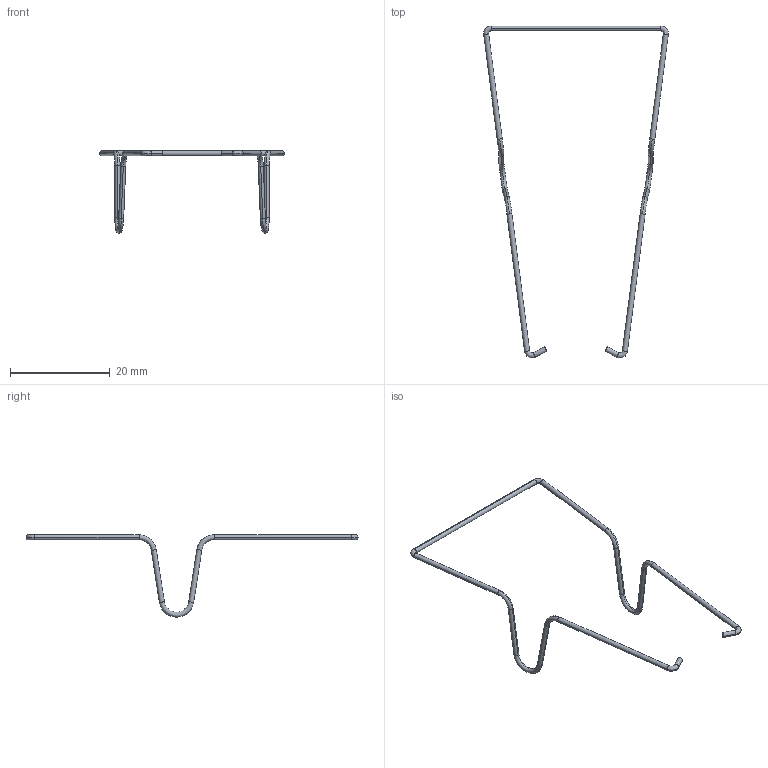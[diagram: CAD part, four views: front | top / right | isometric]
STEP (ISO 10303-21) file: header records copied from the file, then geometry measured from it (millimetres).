
FILE_DESCRIPTION (( 'STEP AP214' ), '1' );
FILE_NAME ('S3-C.STEP', '2014-03-28T14:41:54', ( '' ), ( '' ), 'SwSTEP 2.0', 'SolidWorks 2014', '' );
FILE_SCHEMA (( 'AUTOMOTIVE_DESIGN' ));
Length unit declared in the file: millimetre
Products named in the file (1): S3-C
Bounding box: 37 x 66.5 x 16.49 mm (x, y, z)
Volume: 173.1 mm3; surface area: 693.9 mm2
Topology: 1 solids, 1 shells, 44 faces, 114 edges, 72 vertices
Faces by surface type: cylinder 22, torus 20, plane 2
Entity records: 1428 total; most frequent: DIRECTION 296, CARTESIAN_POINT 231, ORIENTED_EDGE 228, AXIS2_PLACEMENT_3D 137, EDGE_CURVE 114, CIRCLE 92, VERTEX_POINT 72, EDGE_LOOP 44
